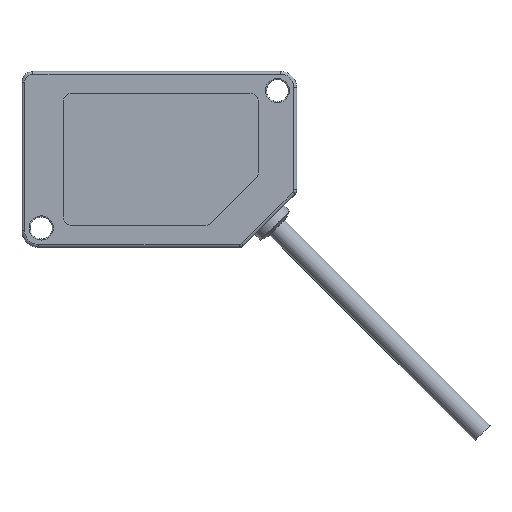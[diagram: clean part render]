
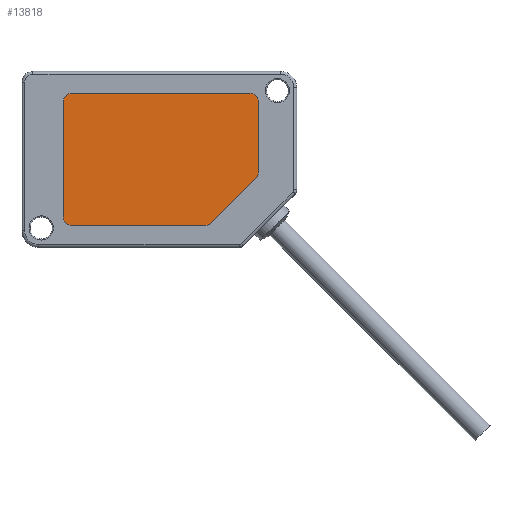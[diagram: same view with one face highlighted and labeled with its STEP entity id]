
A CAD part, top view. The second image highlights one B-rep face of the part: STEP entity #13818.
In plain terms, the highlighted planar face has unit normal (0, 0, 1).
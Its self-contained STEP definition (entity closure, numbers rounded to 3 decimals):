
#1370=LINE('',#27854,#2256);
#1374=LINE('',#27861,#2260);
#1376=LINE('',#27866,#2262);
#1379=LINE('',#27872,#2265);
#1382=LINE('',#27878,#2268);
#2256=VECTOR('',#17874,11.343);
#2260=VECTOR('',#17880,24.479);
#2262=VECTOR('',#17884,21.);
#2265=VECTOR('',#17889,32.5);
#2268=VECTOR('',#17894,12.979);
#4312=FACE_OUTER_BOUND('',#5165,.T.);
#5165=EDGE_LOOP('',(#12341,#12342,#12343,#12344,#12345,#12346,#12347,#12348,
#12349,#12350));
#5775=CIRCLE('',#14934,1.5);
#5776=CIRCLE('',#14935,1.5);
#5777=CIRCLE('',#14936,1.5);
#5778=CIRCLE('',#14937,1.5);
#5779=CIRCLE('',#14938,1.5);
#6996=VERTEX_POINT('',#27852);
#6997=VERTEX_POINT('',#27853);
#6998=VERTEX_POINT('',#27858);
#6999=VERTEX_POINT('',#27860);
#7000=VERTEX_POINT('',#27864);
#7001=VERTEX_POINT('',#27865);
#7002=VERTEX_POINT('',#27870);
#7003=VERTEX_POINT('',#27871);
#7004=VERTEX_POINT('',#27876);
#7005=VERTEX_POINT('',#27877);
#8815=EDGE_CURVE('',#6996,#6997,#1370,.T.);
#8819=EDGE_CURVE('',#6999,#6998,#1374,.T.);
#8821=EDGE_CURVE('',#7000,#7001,#1376,.T.);
#8824=EDGE_CURVE('',#7002,#7003,#1379,.T.);
#8827=EDGE_CURVE('',#7004,#7005,#1382,.T.);
#8830=EDGE_CURVE('',#6998,#6996,#5775,.T.);
#8831=EDGE_CURVE('',#6997,#7004,#5776,.T.);
#8832=EDGE_CURVE('',#7005,#7002,#5777,.T.);
#8833=EDGE_CURVE('',#7003,#7000,#5778,.T.);
#8834=EDGE_CURVE('',#7001,#6999,#5779,.T.);
#12341=ORIENTED_EDGE('',*,*,#8819,.T.);
#12342=ORIENTED_EDGE('',*,*,#8830,.T.);
#12343=ORIENTED_EDGE('',*,*,#8815,.T.);
#12344=ORIENTED_EDGE('',*,*,#8831,.T.);
#12345=ORIENTED_EDGE('',*,*,#8827,.T.);
#12346=ORIENTED_EDGE('',*,*,#8832,.T.);
#12347=ORIENTED_EDGE('',*,*,#8824,.T.);
#12348=ORIENTED_EDGE('',*,*,#8833,.T.);
#12349=ORIENTED_EDGE('',*,*,#8821,.T.);
#12350=ORIENTED_EDGE('',*,*,#8834,.T.);
#13123=PLANE('',#14933);
#13818=ADVANCED_FACE('',(#4312),#13123,.T.);
#14933=AXIS2_PLACEMENT_3D('',#27881,#17897,#17898);
#14934=AXIS2_PLACEMENT_3D('',#27882,#17899,#17900);
#14935=AXIS2_PLACEMENT_3D('',#27883,#17901,#17902);
#14936=AXIS2_PLACEMENT_3D('',#27884,#17903,#17904);
#14937=AXIS2_PLACEMENT_3D('',#27885,#17905,#17906);
#14938=AXIS2_PLACEMENT_3D('',#27886,#17907,#17908);
#17874=DIRECTION('',(0.707,0.707,0.));
#17880=DIRECTION('',(1.,0.,0.));
#17884=DIRECTION('',(0.,-1.,0.));
#17889=DIRECTION('',(-1.,0.,0.));
#17894=DIRECTION('',(0.,1.,0.));
#17897=DIRECTION('center_axis',(0.,0.,1.));
#17898=DIRECTION('ref_axis',(1.,0.,0.));
#17899=DIRECTION('center_axis',(0.,0.,1.));
#17900=DIRECTION('ref_axis',(1.,0.,0.));
#17901=DIRECTION('center_axis',(0.,0.,1.));
#17902=DIRECTION('ref_axis',(1.,0.,0.));
#17903=DIRECTION('center_axis',(0.,0.,1.));
#17904=DIRECTION('ref_axis',(1.,0.,0.));
#17905=DIRECTION('center_axis',(0.,0.,1.));
#17906=DIRECTION('ref_axis',(1.,0.,0.));
#17907=DIRECTION('center_axis',(0.,0.,1.));
#17908=DIRECTION('ref_axis',(1.,0.,0.));
#27852=CARTESIAN_POINT('',(34.54,4.439,20.7));
#27853=CARTESIAN_POINT('',(42.561,12.46,20.7));
#27854=CARTESIAN_POINT('',(34.54,4.439,20.7));
#27858=CARTESIAN_POINT('',(33.479,4.,20.7));
#27860=CARTESIAN_POINT('',(9.,4.,20.7));
#27861=CARTESIAN_POINT('',(9.,4.,20.7));
#27864=CARTESIAN_POINT('',(7.5,26.5,20.7));
#27865=CARTESIAN_POINT('',(7.5,5.5,20.7));
#27866=CARTESIAN_POINT('',(7.5,26.5,20.7));
#27870=CARTESIAN_POINT('',(41.5,28.,20.7));
#27871=CARTESIAN_POINT('',(9.,28.,20.7));
#27872=CARTESIAN_POINT('',(41.5,28.,20.7));
#27876=CARTESIAN_POINT('',(43.,13.521,20.7));
#27877=CARTESIAN_POINT('',(43.,26.5,20.7));
#27878=CARTESIAN_POINT('',(43.,13.521,20.7));
#27881=CARTESIAN_POINT('Origin',(25.,16.,20.7));
#27882=CARTESIAN_POINT('Origin',(33.479,5.5,20.7));
#27883=CARTESIAN_POINT('Origin',(41.5,13.521,20.7));
#27884=CARTESIAN_POINT('Origin',(41.5,26.5,20.7));
#27885=CARTESIAN_POINT('Origin',(9.,26.5,20.7));
#27886=CARTESIAN_POINT('Origin',(9.,5.5,20.7));
